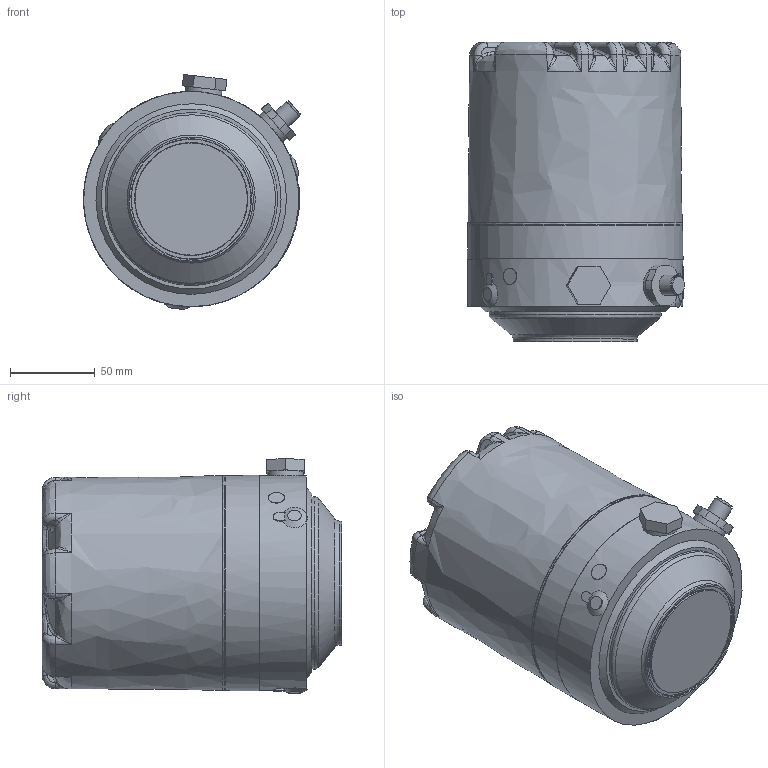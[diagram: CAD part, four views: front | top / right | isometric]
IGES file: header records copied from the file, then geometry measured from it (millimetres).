
Global section: file name: WCB - maint. free; native system: Autodesk Inventor 2020; preprocessor: unknown; author: H7M44K; date: 20210423.134152; units: inch
Bounding box: 127.94 x 176.3 x 138.41 mm (x, y, z)
Volume: 2044703.4 mm3; surface area: 92863.5 mm2
Topology: 1 solids, 1 shells, 270 faces, 674 edges, 403 vertices
Faces by surface type: bspline 270
